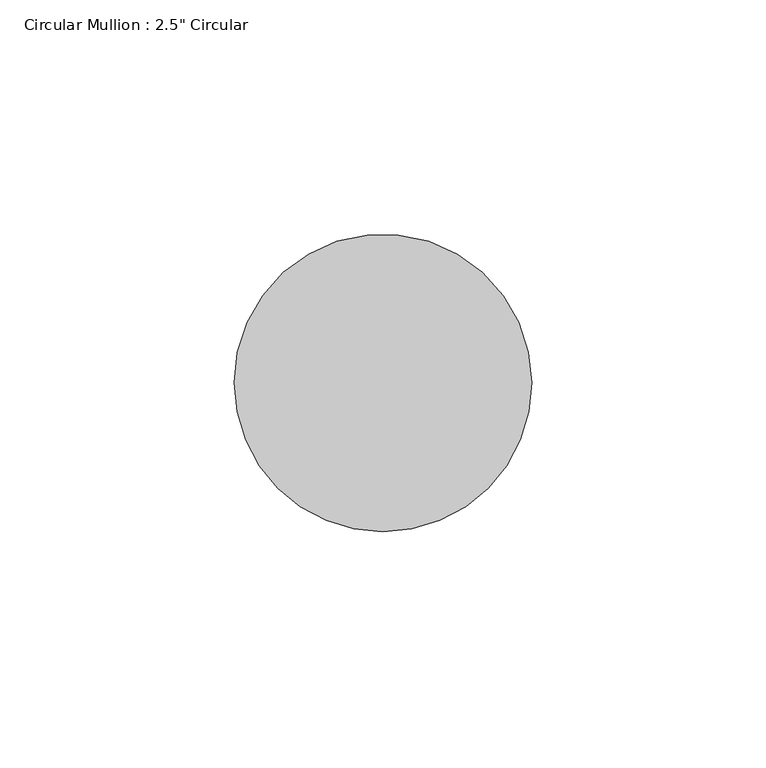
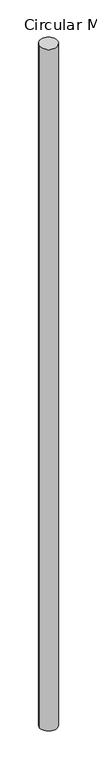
"""IFC4 building model written with IfcOpenShell, lengths in millimetres: member geometry."""

from ifc_helpers import new_model, si_unit, frame, origin, place, context, project, spatial, circle_curve, ellipse_curve, source, transform, mapped, element, save
from ifc_brep_helpers import plane_surface, cylinder_surface, advanced_brep


def member_b4dc21fd(model_context):
    return source(origin(), model_context, "Body", "AdvancedBrep", [
        advanced_brep(
        [(0.0, 0.0, -2627.4491711), (-63.5, 0.0, -2627.4491711), (-63.5, 0.0, -1.1676773), (0.0, 0.0, 0.0)],
        [
            (0, 1, circle_curve(frame((-31.75, 0.0, -2627.4491711), z_axis=(0.0, 0.0, -1.0), x_axis=(1.0, 0.0, 0.0)), 31.75)),
            (1, 0, circle_curve(frame((-31.75, 0.0, -2627.4491711), z_axis=(0.0, 0.0, -1.0), x_axis=(1.0, 0.0, 0.0)), 31.75)),
            (2, 3, ellipse_curve(frame((-31.75, 0.0, -0.5838387), z_axis=(0.018352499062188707, 0.05989880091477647, -0.9980357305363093), x_axis=(0.29237426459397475, 0.9542497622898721, 0.0626472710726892)), 31.8124883, 31.75)),
            (3, 0),
            (1, 2),
            (3, 2, ellipse_curve(frame((-31.75, 0.0, -0.5838387), z_axis=(0.018352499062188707, 0.05989880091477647, -0.9980357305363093), x_axis=(0.29237426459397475, 0.9542497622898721, 0.0626472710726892)), 31.8124883, 31.75)),
        ],
        [
            plane_surface(frame((0.0, -63.5, -2627.4491711), z_axis=(0.0, 0.0, -1.0), x_axis=(-1.0, 0.0, 0.0))),
            cylinder_surface(frame((-31.75, 0.0, 0.0), z_axis=(0.0, 0.0, 1.0), x_axis=(1.0, 0.0, 0.0)), 31.75),
            plane_surface(frame((291.4277702, -89.2910676, 0.0), z_axis=(-0.018352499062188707, -0.05989880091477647, 0.9980357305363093), x_axis=(-0.2923742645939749, -0.9542497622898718, -0.06264727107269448))),
        ],
        [
            (0, [[1, 2]]),
            (1, [[3, 4, -2, 5]]),
            (1, [[6, -5, -1, -4]]),
            (2, [[-3, -6]]),
        ],
    ),
    ])


if __name__ == "__main__":
    model = new_model("IFC4")
    model_context = context("Model", 3, world=origin())
    ifc_project = project(units=[si_unit("LENGTHUNIT", "METRE", prefix="MILLI")], contexts=[model_context])
    site = spatial("IfcSite", under=ifc_project)
    building = spatial("IfcBuilding", under=site)
    placement = place(None, origin())
    member_shape = member_b4dc21fd(model_context)
    element("IfcMember", 1, ObjectType="Circular Mullion : 2.5\" Circular", at=placement, inside=building, context=model_context, shape_type="MappedRepresentation", body=[
        mapped(member_shape, transform((0.0, 0.0, 0.0), x_axis=(1.0, 0.0, 0.0), y_axis=(0.0, 1.0, 0.0), z_axis=(0.0, 0.0, 1.0))),
    ])
    save(model, "model.ifc")
